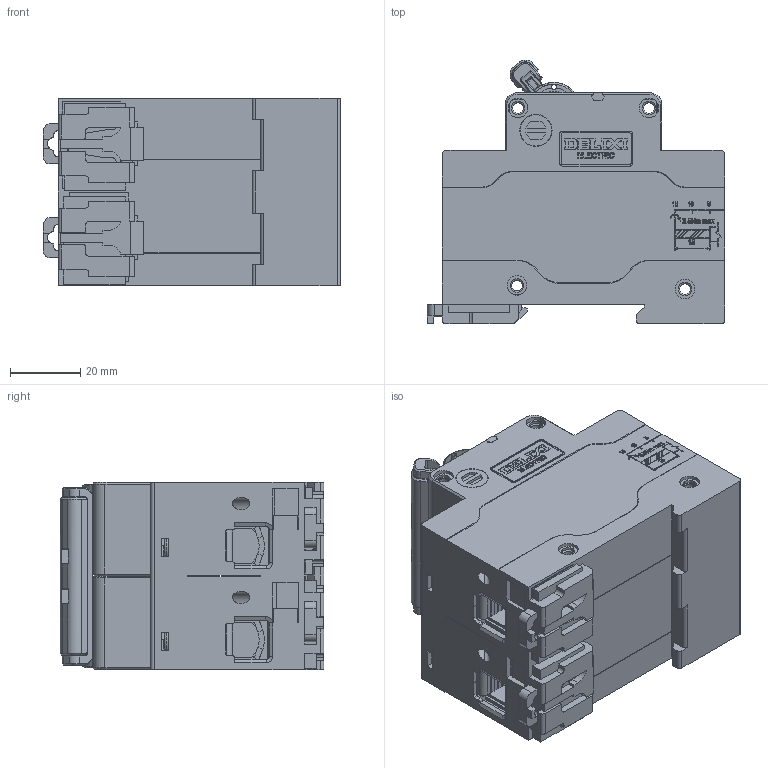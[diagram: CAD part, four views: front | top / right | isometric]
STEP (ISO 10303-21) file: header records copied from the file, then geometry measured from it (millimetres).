
FILE_DESCRIPTION((''),'2;1');
FILE_NAME('2253006600_ASM_SW0001','2019-07-17T',('xiao.wang'),(''),'PRO/ENGINEER BY PARAMETRIC TECHNOLOGY CORPORATION, 2015440','PRO/ENGINEER BY PARAMETRIC TECHNOLOGY CORPORATION, 2015440','');
FILE_SCHEMA(('CONFIG_CONTROL_DESIGN'));
Products named in the file (1): 2253006600_ASM_SW0001
Bounding box: 84.9 x 75.29 x 53.6 mm (x, y, z)
Volume: 210443 mm3; surface area: 74738 mm2
Topology: 1 solids, 2 shells, 4108 faces, 11638 edges, 7579 vertices
Faces by surface type: plane 2883, cylinder 670, extrusion 354, cone 78, torus 71, bspline 40, sphere 12
Entity records: 137176 total; most frequent: CARTESIAN_POINT 30869, ORIENTED_EDGE 23252, DIRECTION 20249, EDGE_CURVE 11626, VECTOR 9245, LINE 8891, VERTEX_POINT 7579, AXIS2_PLACEMENT_3D 5502
